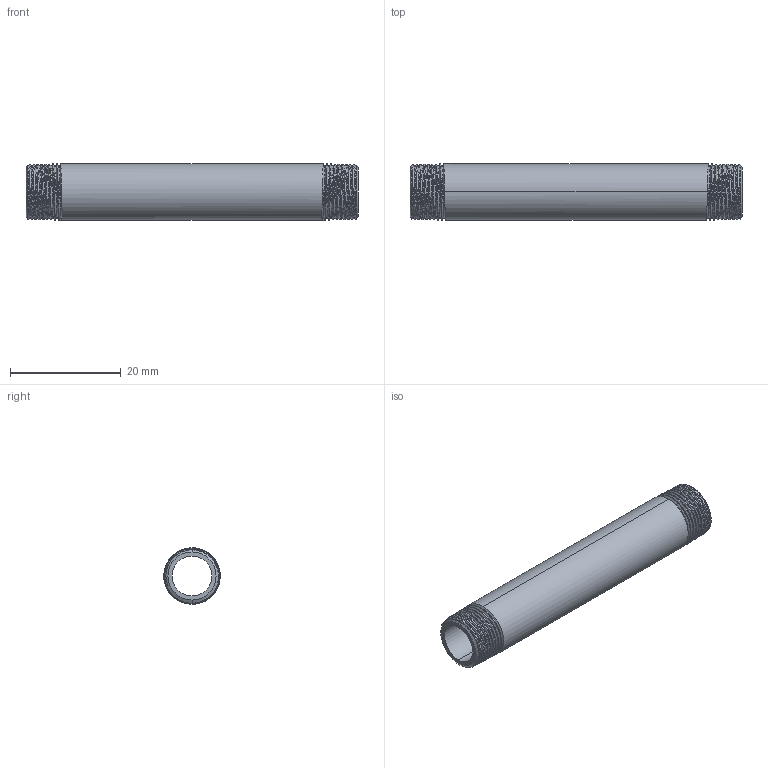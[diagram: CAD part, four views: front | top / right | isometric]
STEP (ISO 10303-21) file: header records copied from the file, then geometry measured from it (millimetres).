
FILE_DESCRIPTION (( 'STEP AP203' ), '1' );
FILE_NAME ('3D_R210_1-8x60_17185670.STEP', '2024-08-16T11:05:06', ( '' ), ( '' ), 'SwSTEP 2.0', 'SolidWorks 2024', '' );
FILE_SCHEMA (( 'CONFIG_CONTROL_DESIGN' ));
Length unit declared in the file: millimetre
Products named in the file (1): 3D_R210_1-8x60_17185670
Bounding box: 60 x 10.2 x 10.2 mm (x, y, z)
Volume: 2368.5 mm3; surface area: 3493.1 mm2
Topology: 1 solids, 1 shells, 54 faces, 150 edges, 98 vertices
Faces by surface type: cone 40, bspline 6, cylinder 4, plane 4
Entity records: 6878 total; most frequent: CARTESIAN_POINT 5622, ORIENTED_EDGE 300, DIRECTION 166, EDGE_CURVE 150, VERTEX_POINT 98, B_SPLINE_CURVE_WITH_KNOTS 86, AXIS2_PLACEMENT_3D 61, EDGE_LOOP 56
